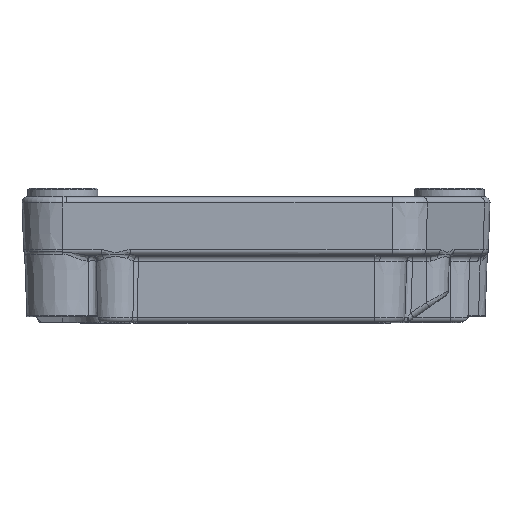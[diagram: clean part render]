
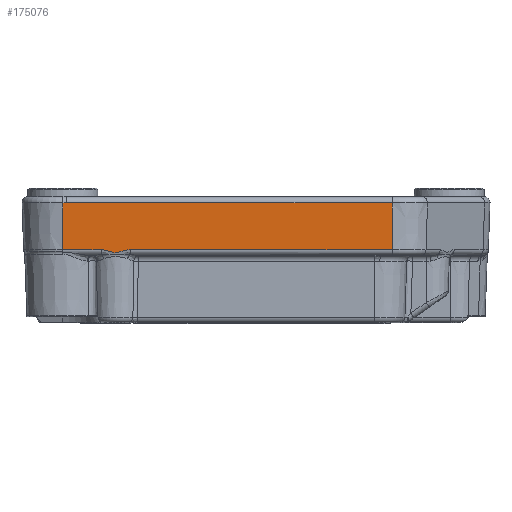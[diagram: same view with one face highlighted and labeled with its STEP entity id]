
A CAD part, front view. The second image highlights one B-rep face of the part: STEP entity #175076.
In plain terms, the highlighted planar face has unit normal (0, -0.999, -0.035).
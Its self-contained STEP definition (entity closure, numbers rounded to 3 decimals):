
#4033 = CARTESIAN_POINT ( 'NONE',  ( -33., -30., 21.5 ) ) ;
#4309 = ORIENTED_EDGE ( 'NONE', *, *, #123126, .T. ) ;
#15931 = VECTOR ( 'NONE', #108947, 1000. ) ;
#16635 = CARTESIAN_POINT ( 'NONE',  ( -25.623, -29.681, 12.37 ) ) ;
#17492 = CARTESIAN_POINT ( 'NONE',  ( -21.438, -29.684, 12.465 ) ) ;
#36476 = CARTESIAN_POINT ( 'NONE',  ( -24.81, -29.673, 12.132 ) ) ;
#37483 = CARTESIAN_POINT ( 'NONE',  ( 23.257, -29.684, 12.465 ) ) ;
#38599 = EDGE_CURVE ( 'NONE', #165765, #95776, #243532, .T. ) ;
#39981 = CARTESIAN_POINT ( 'NONE',  ( 23.257, -29.964, 20.465 ) ) ;
#41048 = AXIS2_PLACEMENT_3D ( 'NONE', #143443, #65096, #202974 ) ;
#45913 = EDGE_LOOP ( 'NONE', ( #84823, #45961, #250070, #206226, #4309, #99197, #159581 ) ) ;
#45961 = ORIENTED_EDGE ( 'NONE', *, *, #118954, .T. ) ;
#47658 = LINE ( 'NONE', #78233, #251223 ) ;
#53172 = CARTESIAN_POINT ( 'NONE',  ( -32.565, -29.964, 20.465 ) ) ;
#55900 = LINE ( 'NONE', #58607, #248207 ) ;
#56315 = CARTESIAN_POINT ( 'NONE',  ( -24.195, -29.668, 11.985 ) ) ;
#58607 = CARTESIAN_POINT ( 'NONE',  ( 23.257, -30., 21.5 ) ) ;
#65096 = DIRECTION ( 'NONE',  ( 0., -0.999, -0.035 ) ) ;
#72947 = VERTEX_POINT ( 'NONE', #245343 ) ;
#73023 = CARTESIAN_POINT ( 'NONE',  ( -33., -29.964, 20.466 ) ) ;
#73441 = LINE ( 'NONE', #248810, #178229 ) ;
#76139 = CARTESIAN_POINT ( 'NONE',  ( -23.766, -29.668, 11.987 ) ) ;
#78233 = CARTESIAN_POINT ( 'NONE',  ( -33., -29.684, 12.465 ) ) ;
#78792 = B_SPLINE_CURVE_WITH_KNOTS ( 'NONE', 3,
 ( #232910, #95132, #16635, #154465, #36476, #174380, #56315, #194191, #76139, #213954, #95972, #233754, #115690, #253661, #135497, #17492 ),
 .UNSPECIFIED., .F., .F.,
 ( 4, 2, 2, 2, 2, 2, 2, 4 ),
 ( 0., 0.001, 0.002, 0.003, 0.003, 0.003, 0.004, 0.005 ),
 .UNSPECIFIED. ) ;
#79078 = DIRECTION ( 'NONE',  ( 1., 0., 0. ) ) ;
#81959 = EDGE_CURVE ( 'NONE', #159834, #177170, #55900, .T. ) ;
#84823 = ORIENTED_EDGE ( 'NONE', *, *, #81959, .T. ) ;
#93642 = VERTEX_POINT ( 'NONE', #243889 ) ;
#95132 = CARTESIAN_POINT ( 'NONE',  ( -26.034, -29.684, 12.465 ) ) ;
#95776 = VERTEX_POINT ( 'NONE', #141228 ) ;
#95972 = CARTESIAN_POINT ( 'NONE',  ( -23.444, -29.67, 12.041 ) ) ;
#99197 = ORIENTED_EDGE ( 'NONE', *, *, #220901, .T. ) ;
#106684 = LINE ( 'NONE', #4033, #211530 ) ;
#108947 = DIRECTION ( 'NONE',  ( 1., 0., 0. ) ) ;
#115690 = CARTESIAN_POINT ( 'NONE',  ( -22.921, -29.675, 12.186 ) ) ;
#118954 = EDGE_CURVE ( 'NONE', #177170, #165765, #73441, .T. ) ;
#123126 = EDGE_CURVE ( 'NONE', #93642, #72947, #167079, .T. ) ;
#129352 = CARTESIAN_POINT ( 'NONE',  ( -32.348, -29.964, 20.465 ) ) ;
#129848 = DIRECTION ( 'NONE',  ( -1., 0., 0. ) ) ;
#135497 = CARTESIAN_POINT ( 'NONE',  ( -21.874, -29.684, 12.465 ) ) ;
#141097 = DIRECTION ( 'NONE',  ( 0., 0.035, -0.999 ) ) ;
#141228 = CARTESIAN_POINT ( 'NONE',  ( -33., -29.964, 20.466 ) ) ;
#143443 = CARTESIAN_POINT ( 'NONE',  ( -33., -30., 21.5 ) ) ;
#151316 = CARTESIAN_POINT ( 'NONE',  ( -32.348, -29.964, 20.465 ) ) ;
#154465 = CARTESIAN_POINT ( 'NONE',  ( -25.013, -29.675, 12.196 ) ) ;
#159581 = ORIENTED_EDGE ( 'NONE', *, *, #203669, .T. ) ;
#159773 = FACE_OUTER_BOUND ( 'NONE', #45913, .T. ) ;
#159834 = VERTEX_POINT ( 'NONE', #37483 ) ;
#163277 = PLANE ( 'NONE',  #41048 ) ;
#165765 = VERTEX_POINT ( 'NONE', #129352 ) ;
#167079 = LINE ( 'NONE', #226964, #15931 ) ;
#174380 = CARTESIAN_POINT ( 'NONE',  ( -24.401, -29.669, 12.026 ) ) ;
#175076 = ADVANCED_FACE ( 'NONE', ( #159773 ), #163277, .T. ) ;
#177170 = VERTEX_POINT ( 'NONE', #39981 ) ;
#178229 = VECTOR ( 'NONE', #129848, 1000. ) ;
#191077 = CARTESIAN_POINT ( 'NONE',  ( -32.783, -29.964, 20.466 ) ) ;
#194191 = CARTESIAN_POINT ( 'NONE',  ( -23.875, -29.668, 11.979 ) ) ;
#196491 = DIRECTION ( 'NONE',  ( 0., -0.035, 0.999 ) ) ;
#202974 = DIRECTION ( 'NONE',  ( 0., 0.035, -0.999 ) ) ;
#203669 = EDGE_CURVE ( 'NONE', #213589, #159834, #47658, .T. ) ;
#206226 = ORIENTED_EDGE ( 'NONE', *, *, #251407, .T. ) ;
#211530 = VECTOR ( 'NONE', #141097, 1000. ) ;
#213589 = VERTEX_POINT ( 'NONE', #227736 ) ;
#213954 = CARTESIAN_POINT ( 'NONE',  ( -23.55, -29.669, 12.018 ) ) ;
#220901 = EDGE_CURVE ( 'NONE', #72947, #213589, #78792, .T. ) ;
#226964 = CARTESIAN_POINT ( 'NONE',  ( -33., -29.684, 12.465 ) ) ;
#227736 = CARTESIAN_POINT ( 'NONE',  ( -21.438, -29.684, 12.465 ) ) ;
#232910 = CARTESIAN_POINT ( 'NONE',  ( -26.462, -29.684, 12.465 ) ) ;
#233754 = CARTESIAN_POINT ( 'NONE',  ( -23.129, -29.672, 12.121 ) ) ;
#243532 = B_SPLINE_CURVE_WITH_KNOTS ( 'NONE', 3,
 ( #151316, #53172, #191077, #73023 ),
 .UNSPECIFIED., .F., .F.,
 ( 4, 4 ),
 ( 0., 0.001 ),
 .UNSPECIFIED. ) ;
#243889 = CARTESIAN_POINT ( 'NONE',  ( -33., -29.684, 12.465 ) ) ;
#245343 = CARTESIAN_POINT ( 'NONE',  ( -26.462, -29.684, 12.465 ) ) ;
#248207 = VECTOR ( 'NONE', #196491, 1000. ) ;
#248810 = CARTESIAN_POINT ( 'NONE',  ( -33., -29.964, 20.465 ) ) ;
#250070 = ORIENTED_EDGE ( 'NONE', *, *, #38599, .T. ) ;
#251223 = VECTOR ( 'NONE', #79078, 1000. ) ;
#251407 = EDGE_CURVE ( 'NONE', #95776, #93642, #106684, .T. ) ;
#253661 = CARTESIAN_POINT ( 'NONE',  ( -22.296, -29.681, 12.365 ) ) ;
